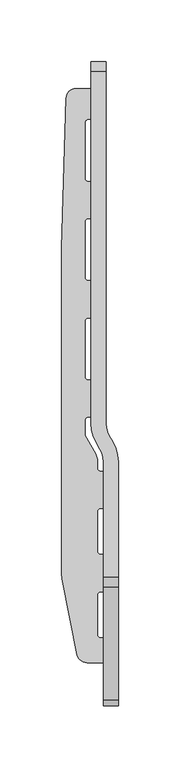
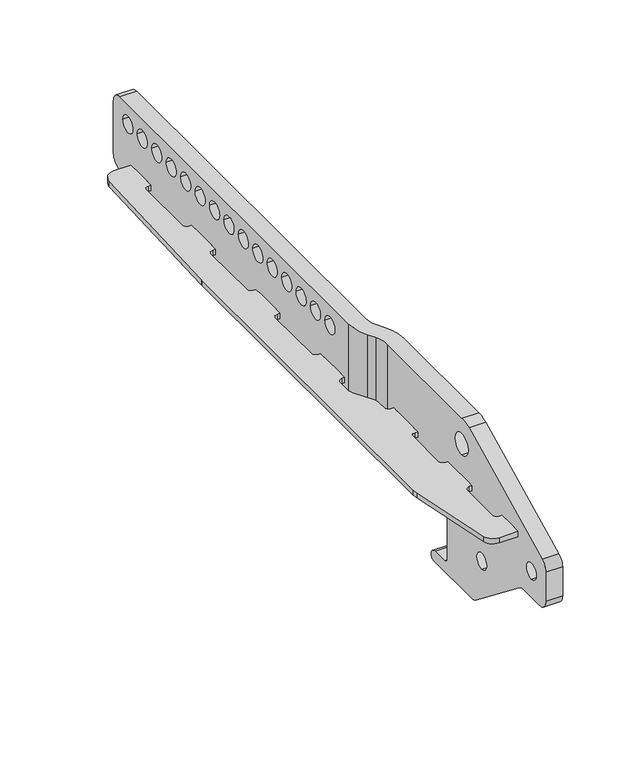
"""IFC4 building model written with IfcOpenShell, lengths in millimetres: proxy geometry, d&b CL-Series CCLi Beam Extension : d&b CL-Series CCLi Beam Extension."""

from ifc_helpers import new_model, si_unit, point, frame, frame_2d, origin, place, context, project, spatial, polyline, circle_curve, ellipse_curve, trimmed, segment, composite_curve, outline, extrude, source, transform, mapped, element, save
from ifc_brep_helpers import plane_surface, cylinder_surface, revolved_surface, advanced_brep


def communication_devices_8c2810ba(model_context):
    return source(origin(), model_context, "Body", "SolidModel", [
        extrude(outline(composite_curve([segment(polyline([(-16.0, 351.5705081), (-18.0, 351.5705081)]), True, "CONTINUOUS"), segment(trimmed(circle_curve(frame_2d((-18.0, 348.5705081)), 3.0), [point((-18.0, 351.5705081))], [point((-21.0, 348.5705081))], True, "CARTESIAN"), True, "CONTINUOUS"), segment(polyline([(-21.0, 348.5705081), (-21.0, 304.1239261)]), True, "CONTINUOUS"), segment(trimmed(circle_curve(frame_2d((-18.0, 304.1239261)), 3.0), [point((-21.0, 304.1239261))], [point((-18.0, 301.1239261))], True, "CARTESIAN"), True, "CONTINUOUS"), segment(polyline([(-18.0, 301.1239261), (-16.0, 301.1239261), (-16.0, 296.2882275), (-11.0, 296.2882275), (-11.0, 276.2882275), (-16.0, 276.2882275), (-16.0, 271.1239261), (-18.0, 271.1239261)]), True, "CONTINUOUS"), segment(trimmed(circle_curve(frame_2d((-18.0, 268.1239261)), 3.0), [point((-18.0, 271.1239261))], [point((-21.0, 268.1239261))], True, "CARTESIAN"), True, "CONTINUOUS"), segment(polyline([(-21.0, 268.1239261), (-21.0, 223.6773441)]), True, "CONTINUOUS"), segment(trimmed(circle_curve(frame_2d((-18.0, 223.6773441)), 3.0), [point((-21.0, 223.6773441))], [point((-18.0, 220.6773441))], True, "CARTESIAN"), True, "CONTINUOUS"), segment(polyline([(-18.0, 220.6773441), (-16.0, 220.6773441), (-16.0, 215.8416456), (-11.0, 215.8416456), (-11.0, 195.8416456), (-16.0, 195.8416456), (-16.0, 190.6773441), (-18.0, 190.6773441)]), True, "CONTINUOUS"), segment(trimmed(circle_curve(frame_2d((-18.0, 187.6773441)), 3.0), [point((-18.0, 190.6773441))], [point((-21.0, 187.6773441))], True, "CARTESIAN"), True, "CONTINUOUS"), segment(polyline([(-21.0, 187.6773441), (-21.0, 143.2307621)]), True, "CONTINUOUS"), segment(trimmed(circle_curve(frame_2d((-18.0, 143.2307621)), 3.0), [point((-21.0, 143.2307621))], [point((-18.0, 140.2307621))], True, "CARTESIAN"), True, "CONTINUOUS"), segment(polyline([(-18.0, 140.2307621), (-16.0, 140.2307621), (-16.0, 135.2307621), (-11.0, 135.2307621), (-11.0, 115.2307621), (-16.0, 115.2307621), (-16.0, 110.2307621), (-18.0, 110.2307621)]), True, "CONTINUOUS"), segment(trimmed(circle_curve(frame_2d((-18.0, 107.2307621)), 3.0), [point((-18.0, 110.2307621))], [point((-21.0, 107.2307621))], True, "CARTESIAN"), True, "CONTINUOUS"), segment(polyline([(-21.0, 107.2307621), (-21.0, 97.3743557)]), True, "CONTINUOUS"), segment(trimmed(circle_curve(frame_2d((-13.0, 97.3743557)), 8.0), [point((-21.0, 97.3743557))], [point((-19.9282032, 93.3743557))], True, "CARTESIAN"), True, "CONTINUOUS"), segment(polyline([(-19.9282032, 93.3743557), (-12.0717968, 79.7666605)]), True, "CONTINUOUS"), segment(trimmed(circle_curve(frame_2d((-19.0, 75.7666605)), 8.0), [point((-12.0717968, 79.7666605))], [point((-11.0, 75.7666605))], False, "CARTESIAN"), True, "CONTINUOUS"), segment(polyline([(-11.0, 75.7666605), (-11.0, 69.25)]), True, "CONTINUOUS"), segment(trimmed(circle_curve(frame_2d((-8.0, 69.25)), 3.0), [point((-11.0, 69.25))], [point((-8.0, 66.25))], True, "CARTESIAN"), True, "CONTINUOUS"), segment(polyline([(-8.0, 66.25), (-6.0, 66.25), (-6.0, 61.4143015), (-1.0, 61.4143015), (-1.0, 41.4143015), (-6.0, 41.4143015), (-6.0, 36.25), (-8.0, 36.25)]), True, "CONTINUOUS"), segment(trimmed(circle_curve(frame_2d((-8.0, 33.25)), 3.0), [point((-8.0, 36.25))], [point((-11.0, 33.25))], True, "CARTESIAN"), True, "CONTINUOUS"), segment(polyline([(-11.0, 33.25), (-11.0, 1.75)]), True, "CONTINUOUS"), segment(trimmed(circle_curve(frame_2d((-8.0, 1.75)), 3.0), [point((-11.0, 1.75))], [point((-8.0, -1.25))], True, "CARTESIAN"), True, "CONTINUOUS"), segment(polyline([(-8.0, -1.25), (-6.0, -1.25), (-6.0, -6.0856985), (-1.0, -6.0856985), (-1.0, -26.0856985), (-6.0, -26.0856985), (-6.0, -31.25), (-8.0, -31.25)]), True, "CONTINUOUS"), segment(trimmed(circle_curve(frame_2d((-8.0, -34.25)), 3.0), [point((-8.0, -31.25))], [point((-11.0, -34.25))], True, "CARTESIAN"), True, "CONTINUOUS"), segment(polyline([(-11.0, -34.25), (-11.0, -65.75)]), True, "CONTINUOUS"), segment(trimmed(circle_curve(frame_2d((-8.0, -65.75)), 3.0), [point((-11.0, -65.75))], [point((-8.0, -68.75))], True, "CARTESIAN"), True, "CONTINUOUS"), segment(polyline([(-8.0, -68.75), (-6.0, -68.75), (-6.0, -73.5856985), (-1.0, -73.5856985), (-1.0, -83.75), (-6.0, -83.75), (-6.0, -88.75), (-19.4415688, -88.75)]), True, "CONTINUOUS"), segment(trimmed(circle_curve(frame_2d((-19.4415688, -80.75)), 8.0), [point((-19.4415688, -88.75))], [point((-27.2862142, -82.3189291))], False, "CARTESIAN"), True, "CONTINUOUS"), segment(polyline([(-27.2862142, -82.3189291), (-39.6116135, -20.6919324)]), True, "CONTINUOUS"), segment(trimmed(circle_curve(frame_2d((-20.0, -16.7696097)), 20.0), [point((-39.6116135, -20.6919324))], [point((-40.0, -16.7696097))], False, "CARTESIAN"), True, "CONTINUOUS"), segment(polyline([(-40.0, -16.7696097), (-40.0, 245.8014593)]), True, "CONTINUOUS"), segment(trimmed(circle_curve(frame_2d((10.0, 245.8014593)), 50.0), [point((-40.0, 245.8014593))], [point((-39.9763482, 247.3391931))], False, "CARTESIAN"), True, "CONTINUOUS"), segment(polyline([(-39.9763482, 247.3391931), (-36.2385835, 368.8165455)]), True, "CONTINUOUS"), segment(trimmed(circle_curve(frame_2d((-28.2423678, 368.5705081)), 8.0), [point((-36.2385835, 368.8165455))], [point((-28.2423678, 376.5705081))], False, "CARTESIAN"), True, "CONTINUOUS"), segment(polyline([(-28.2423678, 376.5705081), (-16.0, 376.5705081), (-16.0, 371.7348095), (-11.0, 371.7348095), (-11.0, 356.5705081), (-16.0, 356.5705081), (-16.0, 351.5705081)]), True, "CONTINUOUS")], self_intersect=False)), frame((0.0, 0.0, 52.75), z_axis=(0.0, 0.0, 1.0), x_axis=(1.0, 0.0, 0.0)), (0.0, 0.0, 1.0), 4.0),
        advanced_brep(
        [(-16.0, 105.1448822, 100.75), (-11.7128129, 89.1448822, 100.75), (-8.6794919, 83.8910162, 100.75), (-6.0, 73.8910162, 100.75), (-6.0, -19.1133562, 100.75), (6.0, -19.1133562, 100.75), (6.0, 73.8910162, 100.75), (1.7128129, 89.8910162, 100.75), (-1.3205081, 95.1448822, 100.75), (-4.0, 105.1448822, 100.75), (-4.0, 390.25, 100.75), (-16.0, 390.25, 100.75), (6.0, 16.25, -29.25), (6.0, -30.9998956, -29.25), (-6.0, -30.9998956, -29.25), (-6.0, 16.25, -29.25), (-4.0, 398.25, 92.75), (-4.0, 398.25, 52.9327867), (-16.0, 398.25, 52.9327867), (-16.0, 398.25, 92.75), (-16.0, 390.7032549, 44.945637), (-16.0, 105.1448822, 28.740767), (-16.0, 374.0000883, 85.7832302), (-16.0, 386.5, 85.75), (-16.0, 356.0000883, 85.7832302), (-16.0, 368.5, 85.75), (-16.0, 337.966858, 85.7832302), (-16.0, 350.4667697, 85.75), (-16.0, 319.9336277, 85.7832302), (-16.0, 332.4335393, 85.75), (-16.0, 283.966858, 85.7832302), (-16.0, 296.4667697, 85.75), (-16.0, 302.0000883, 85.7832302), (-16.0, 314.5, 85.75), (-16.0, 265.966858, 85.7832302), (-16.0, 278.4667697, 85.75), (-16.0, 247.966858, 85.7832302), (-16.0, 260.4667697, 85.75), (-16.0, 229.9336277, 85.7832302), (-16.0, 242.4335393, 85.75), (-16.0, 211.9003973, 85.7832302), (-16.0, 224.400309, 85.75), (-16.0, 175.9336277, 85.7832302), (-16.0, 188.4335393, 85.75), (-16.0, 193.966858, 85.7832302), (-16.0, 206.4667697, 85.75), (-16.0, 158.0000883, 85.7832302), (-16.0, 170.5, 85.75), (-16.0, 122.0333187, 85.7832302), (-16.0, 134.5332303, 85.75), (-16.0, 140.066549, 85.7832302), (-16.0, 152.5664607, 85.75), (-16.0, 114.9807621, 57.0), (-16.0, 114.9807621, 52.5), (-16.0, 135.4807621, 52.5), (-16.0, 135.4807621, 57.0), (-16.0, 195.4273441, 57.0), (-16.0, 195.4273441, 52.5), (-16.0, 215.9273441, 52.5), (-16.0, 215.9273441, 57.0), (-16.0, 275.8739261, 57.0), (-16.0, 275.8739261, 52.5), (-16.0, 296.3739261, 52.5), (-16.0, 296.3739261, 57.0), (-16.0, 356.3205081, 57.0), (-16.0, 356.3205081, 52.5), (-16.0, 371.8205081, 52.5), (-16.0, 371.8205081, 57.0), (-11.7128129, 89.1448822, 27.776786), (-8.6794919, 83.8910162, 27.4602468), (-6.0, 73.8910162, 26.8577587), (-6.0, 72.0778609, 26.7485183), (-6.0, 65.5603449, 24.1829344), (-6.0, 59.2196847, 21.6219606), (-6.0, 34.25, 20.75), (-6.0, 2.25, 20.75), (-6.0, -0.75, 17.75), (-6.0, -0.75, -17.75), (-6.0, 2.25, -20.75), (-6.0, 14.25, -20.75), (-6.0, 19.2420533, -26.0317868), (-6.0, -35.9188202, -27.5590555), (-6.0, -90.5811798, 15.0590555), (-6.0, -95.5001044, 16.75), (-6.0, -115.75, 16.75), (-6.0, -123.75, 24.75), (-6.0, -123.75, 46.7612178), (-6.0, -119.270122, 53.9451402), (-6.0, -27.9136612, 98.709806), (-6.0, -18.75, 72.75), (-6.0, -18.75, 88.75), (-6.0, -43.75, 0.75), (-6.0, -43.75, 12.75), (-6.0, -105.75, 30.75), (-6.0, -105.75, 42.75), (-6.0, 41.0, 57.0), (-6.0, 41.0, 52.5), (-6.0, 61.5, 52.5), (-6.0, 61.5, 57.0), (-6.0, -26.5, 57.0), (-6.0, -26.5, 52.5), (-6.0, -6.0, 52.5), (-6.0, -6.0, 57.0), (-6.0, -84.0, 57.0), (-6.0, -84.0, 52.5), (-6.0, -73.5, 52.5), (-6.0, -73.5, 57.0), (-6.0, 56.25, 30.75), (-6.0, 56.25, 42.75), (6.0, -123.75, 24.75), (6.0, -123.75, 46.7612178), (6.0, -27.9136612, 98.709806), (6.0, -119.270122, 53.9451402), (6.0, -115.75, 16.75), (6.0, -95.5001044, 16.75), (6.0, -90.5811798, 15.0590555), (6.0, -35.9188202, -27.5590555), (6.0, 19.2420533, -26.0317868), (6.0, 14.25, -20.75), (6.0, 2.25, -20.75), (6.0, -0.75, -17.75), (6.0, -0.75, 17.75), (6.0, 2.25, 20.75), (6.0, 34.25, 20.75), (6.0, 59.2196847, 21.6219606), (6.0, 65.5603449, 24.1829344), (6.0, 72.0778609, 26.7485183), (6.0, 73.8910162, 26.8577587), (6.0, -18.75, 88.75), (6.0, -18.75, 72.75), (6.0, -43.75, 12.75), (6.0, -43.75, 0.75), (6.0, -105.75, 42.75), (6.0, -105.75, 30.75), (6.0, 41.0, 52.5), (6.0, 41.0, 57.0), (6.0, 61.5, 57.0), (6.0, 61.5, 52.5), (6.0, -26.5, 52.5), (6.0, -26.5, 57.0), (6.0, -6.0, 57.0), (6.0, -6.0, 52.5), (6.0, -84.0, 52.5), (6.0, -84.0, 57.0), (6.0, -73.5, 57.0), (6.0, -73.5, 52.5), (6.0, 56.25, 42.75), (6.0, 56.25, 30.75), (1.7128129, 89.8910162, 27.8217397), (-1.3205081, 95.1448822, 28.1382789), (-4.0, 105.1448822, 28.740767), (-4.0, 390.7032549, 44.945637), (-4.0, 386.5, 85.75), (-4.0, 374.0000883, 85.7832302), (-4.0, 368.5, 85.75), (-4.0, 356.0000883, 85.7832302), (-4.0, 350.4667697, 85.75), (-4.0, 337.966858, 85.7832302), (-4.0, 332.4335393, 85.75), (-4.0, 319.9336277, 85.7832302), (-4.0, 296.4667697, 85.75), (-4.0, 283.966858, 85.7832302), (-4.0, 314.5, 85.75), (-4.0, 302.0000883, 85.7832302), (-4.0, 278.4667697, 85.75), (-4.0, 265.966858, 85.7832302), (-4.0, 260.4667697, 85.75), (-4.0, 247.966858, 85.7832302), (-4.0, 242.4335393, 85.75), (-4.0, 229.9336277, 85.7832302), (-4.0, 224.400309, 85.75), (-4.0, 211.9003973, 85.7832302), (-4.0, 188.4335393, 85.75), (-4.0, 175.9336277, 85.7832302), (-4.0, 206.4667697, 85.75), (-4.0, 193.966858, 85.7832302), (-4.0, 170.5, 85.75), (-4.0, 158.0000883, 85.7832302), (-4.0, 134.5332303, 85.75), (-4.0, 122.0333187, 85.7832302), (-4.0, 152.5664607, 85.75), (-4.0, 140.066549, 85.7832302), (-4.0, 114.9807621, 52.5), (-4.0, 114.9807621, 57.0), (-4.0, 135.4807621, 57.0), (-4.0, 135.4807621, 52.5), (-4.0, 195.4273441, 52.5), (-4.0, 195.4273441, 57.0), (-4.0, 215.9273441, 57.0), (-4.0, 215.9273441, 52.5), (-4.0, 275.8739261, 52.5), (-4.0, 275.8739261, 57.0), (-4.0, 296.3739261, 57.0), (-4.0, 296.3739261, 52.5), (-4.0, 356.3205081, 52.5), (-4.0, 356.3205081, 57.0), (-4.0, 371.8205081, 57.0), (-4.0, 371.8205081, 52.5)],
        [
            (0, 1, circle_curve(frame((16.0, 105.1448822, 100.75), z_axis=(0.0, 0.0, 1.0), x_axis=(-1.0, 0.0, 0.0)), 32.0)),
            (1, 2),
            (2, 3, circle_curve(frame((-26.0, 73.8910162, 100.75), z_axis=(0.0, 0.0, -1.0), x_axis=(1.0, 0.0, 0.0)), 20.0)),
            (3, 4),
            (4, 5),
            (5, 6),
            (6, 7, circle_curve(frame((-26.0, 73.8910162, 100.75), z_axis=(0.0, 0.0, 1.0), x_axis=(1.0, 0.0, 0.0)), 32.0)),
            (7, 8),
            (8, 9, circle_curve(frame((16.0, 105.1448822, 100.75), z_axis=(0.0, 0.0, -1.0), x_axis=(-1.0, 0.0, 0.0)), 20.0)),
            (9, 10),
            (10, 11),
            (11, 0),
            (12, 13),
            (13, 14),
            (14, 15),
            (15, 12),
            (16, 17),
            (17, 18),
            (18, 19),
            (19, 16),
            (11, 19, circle_curve(frame((-16.0, 390.25, 92.75), z_axis=(-1.0, 0.0, 0.0), x_axis=(0.0, 0.0, 1.0)), 8.0)),
            (18, 20, circle_curve(frame((-16.0, 390.25, 52.9327867), z_axis=(-1.0, 0.0, 0.0), x_axis=(0.0, 0.0, 1.0)), 8.0)),
            (20, 21),
            (21, 0),
            (22, 23, circle_curve(frame((-16.0, 380.25, 85.75), z_axis=(1.0, 0.0, 0.0), x_axis=(0.0, 0.0, 1.0)), 6.25)),
            (23, 22, circle_curve(frame((-16.0, 380.25, 85.75), z_axis=(1.0, 0.0, 0.0), x_axis=(0.0, 0.0, 1.0)), 6.25)),
            (24, 25, circle_curve(frame((-16.0, 362.25, 85.75), z_axis=(1.0, 0.0, 0.0), x_axis=(0.0, 0.0, 1.0)), 6.25)),
            (25, 24, circle_curve(frame((-16.0, 362.25, 85.75), z_axis=(1.0, 0.0, 0.0), x_axis=(0.0, 0.0, 1.0)), 6.25)),
            (26, 27, circle_curve(frame((-16.0, 344.2167697, 85.75), z_axis=(1.0, 0.0, 0.0), x_axis=(0.0, 0.0, 1.0)), 6.25)),
            (27, 26, circle_curve(frame((-16.0, 344.2167697, 85.75), z_axis=(1.0, 0.0, 0.0), x_axis=(0.0, 0.0, 1.0)), 6.25)),
            (28, 29, circle_curve(frame((-16.0, 326.1835393, 85.75), z_axis=(1.0, 0.0, 0.0), x_axis=(0.0, 0.0, 1.0)), 6.25)),
            (29, 28, circle_curve(frame((-16.0, 326.1835393, 85.75), z_axis=(1.0, 0.0, 0.0), x_axis=(0.0, 0.0, 1.0)), 6.25)),
            (30, 31, circle_curve(frame((-16.0, 290.2167697, 85.75), z_axis=(1.0, 0.0, 0.0), x_axis=(0.0, 0.0, 1.0)), 6.25)),
            (31, 30, circle_curve(frame((-16.0, 290.2167697, 85.75), z_axis=(1.0, 0.0, 0.0), x_axis=(0.0, 0.0, 1.0)), 6.25)),
            (32, 33, circle_curve(frame((-16.0, 308.25, 85.75), z_axis=(1.0, 0.0, 0.0), x_axis=(0.0, 0.0, 1.0)), 6.25)),
            (33, 32, circle_curve(frame((-16.0, 308.25, 85.75), z_axis=(1.0, 0.0, 0.0), x_axis=(0.0, 0.0, 1.0)), 6.25)),
            (34, 35, circle_curve(frame((-16.0, 272.2167697, 85.75), z_axis=(1.0, 0.0, 0.0), x_axis=(0.0, 0.0, 1.0)), 6.25)),
            (35, 34, circle_curve(frame((-16.0, 272.2167697, 85.75), z_axis=(1.0, 0.0, 0.0), x_axis=(0.0, 0.0, 1.0)), 6.25)),
            (36, 37, circle_curve(frame((-16.0, 254.2167697, 85.75), z_axis=(1.0, 0.0, 0.0), x_axis=(0.0, 0.0, 1.0)), 6.25)),
            (37, 36, circle_curve(frame((-16.0, 254.2167697, 85.75), z_axis=(1.0, 0.0, 0.0), x_axis=(0.0, 0.0, 1.0)), 6.25)),
            (38, 39, circle_curve(frame((-16.0, 236.1835393, 85.75), z_axis=(1.0, 0.0, 0.0), x_axis=(0.0, 0.0, 1.0)), 6.25)),
            (39, 38, circle_curve(frame((-16.0, 236.1835393, 85.75), z_axis=(1.0, 0.0, 0.0), x_axis=(0.0, 0.0, 1.0)), 6.25)),
            (40, 41, circle_curve(frame((-16.0, 218.150309, 85.75), z_axis=(1.0, 0.0, 0.0), x_axis=(0.0, 0.0, 1.0)), 6.25)),
            (41, 40, circle_curve(frame((-16.0, 218.150309, 85.75), z_axis=(1.0, 0.0, 0.0), x_axis=(0.0, 0.0, 1.0)), 6.25)),
            (42, 43, circle_curve(frame((-16.0, 182.1835393, 85.75), z_axis=(1.0, 0.0, 0.0), x_axis=(0.0, 0.0, 1.0)), 6.25)),
            (43, 42, circle_curve(frame((-16.0, 182.1835393, 85.75), z_axis=(1.0, 0.0, 0.0), x_axis=(0.0, 0.0, 1.0)), 6.25)),
            (44, 45, circle_curve(frame((-16.0, 200.2167697, 85.75), z_axis=(1.0, 0.0, 0.0), x_axis=(0.0, 0.0, 1.0)), 6.25)),
            (45, 44, circle_curve(frame((-16.0, 200.2167697, 85.75), z_axis=(1.0, 0.0, 0.0), x_axis=(0.0, 0.0, 1.0)), 6.25)),
            (46, 47, circle_curve(frame((-16.0, 164.25, 85.75), z_axis=(1.0, 0.0, 0.0), x_axis=(0.0, 0.0, 1.0)), 6.25)),
            (47, 46, circle_curve(frame((-16.0, 164.25, 85.75), z_axis=(1.0, 0.0, 0.0), x_axis=(0.0, 0.0, 1.0)), 6.25)),
            (48, 49, circle_curve(frame((-16.0, 128.2832303, 85.75), z_axis=(1.0, 0.0, 0.0), x_axis=(0.0, 0.0, 1.0)), 6.25)),
            (49, 48, circle_curve(frame((-16.0, 128.2832303, 85.75), z_axis=(1.0, 0.0, 0.0), x_axis=(0.0, 0.0, 1.0)), 6.25)),
            (50, 51, circle_curve(frame((-16.0, 146.3164607, 85.75), z_axis=(1.0, 0.0, 0.0), x_axis=(0.0, 0.0, 1.0)), 6.25)),
            (51, 50, circle_curve(frame((-16.0, 146.3164607, 85.75), z_axis=(1.0, 0.0, 0.0), x_axis=(0.0, 0.0, 1.0)), 6.25)),
            (52, 53),
            (53, 54),
            (54, 55),
            (55, 52),
            (56, 57),
            (57, 58),
            (58, 59),
            (59, 56),
            (60, 61),
            (61, 62),
            (62, 63),
            (63, 60),
            (64, 65),
            (65, 66),
            (66, 67),
            (67, 64),
            (21, 68, ellipse_curve(frame((16.0, 105.1448822, 28.740767), z_axis=(0.0, -0.06013975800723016, 0.9981899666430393), x_axis=(0.0, 0.9981899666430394, 0.06013975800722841)), 32.0580261, 32.0)),
            (68, 1),
            (68, 69),
            (69, 2),
            (69, 70, ellipse_curve(frame((-26.0, 73.8910162, 26.8577587), z_axis=(0.0, 0.06013975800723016, -0.9981899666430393), x_axis=(0.0, -0.9981899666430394, -0.06013975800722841)), 20.0362663, 20.0)),
            (70, 3),
            (70, 71),
            (71, 72, circle_curve(frame((-6.0, 72.25, 16.75), z_axis=(1.0, 0.0, 0.0), x_axis=(0.0, 0.0, -1.0)), 10.0)),
            (72, 73, circle_curve(frame((-6.0, 58.8706898, 31.6158689), z_axis=(-1.0, 0.0, 0.0), x_axis=(0.0, 0.0, 1.0)), 10.0)),
            (73, 74),
            (74, 75),
            (75, 76, circle_curve(frame((-6.0, 2.25, 17.75), z_axis=(1.0, 0.0, 0.0), x_axis=(0.0, 0.0, -1.0)), 3.0)),
            (76, 77),
            (77, 78, circle_curve(frame((-6.0, 2.25, -17.75), z_axis=(1.0, 0.0, 0.0), x_axis=(0.0, 0.0, -1.0)), 3.0)),
            (78, 79),
            (79, 80, circle_curve(frame((-6.0, 14.25, -25.75), z_axis=(-1.0, 0.0, 0.0), x_axis=(0.0, 0.0, 1.0)), 5.0)),
            (80, 15, circle_curve(frame((-6.0, 16.25, -26.25), z_axis=(-1.0, 0.0, 0.0), x_axis=(0.0, 0.0, 1.0)), 3.0)),
            (14, 81, circle_curve(frame((-6.0, -30.9998956, -21.25), z_axis=(-1.0, 0.0, 0.0), x_axis=(0.0, 0.0, 1.0)), 8.0)),
            (81, 82),
            (82, 83, circle_curve(frame((-6.0, -95.5001044, 8.75), z_axis=(1.0, 0.0, 0.0), x_axis=(0.0, 0.0, -1.0)), 8.0)),
            (83, 84),
            (84, 85, circle_curve(frame((-6.0, -115.75, 24.75), z_axis=(-1.0, 0.0, 0.0), x_axis=(0.0, 0.0, 1.0)), 8.0)),
            (85, 86),
            (86, 87, circle_curve(frame((-6.0, -115.75, 46.7612178), z_axis=(-1.0, 0.0, 0.0), x_axis=(0.0, 0.0, 1.0)), 8.0)),
            (87, 88),
            (88, 4, circle_curve(frame((-6.0, -19.1133562, 80.75), z_axis=(-1.0, 0.0, 0.0), x_axis=(0.0, 0.0, 1.0)), 20.0)),
            (89, 90, circle_curve(frame((-6.0, -18.75, 80.75), z_axis=(1.0, 0.0, 0.0), x_axis=(0.0, 0.0, 1.0)), 8.0)),
            (90, 89, circle_curve(frame((-6.0, -18.75, 80.75), z_axis=(1.0, 0.0, 0.0), x_axis=(0.0, 0.0, 1.0)), 8.0)),
            (91, 92, circle_curve(frame((-6.0, -43.75, 6.75), z_axis=(1.0, 0.0, 0.0), x_axis=(0.0, 0.0, 1.0)), 6.0)),
            (92, 91, circle_curve(frame((-6.0, -43.75, 6.75), z_axis=(1.0, 0.0, 0.0), x_axis=(0.0, 0.0, 1.0)), 6.0)),
            (93, 94, circle_curve(frame((-6.0, -105.75, 36.75), z_axis=(1.0, 0.0, 0.0), x_axis=(0.0, 0.0, 1.0)), 6.0)),
            (94, 93, circle_curve(frame((-6.0, -105.75, 36.75), z_axis=(1.0, 0.0, 0.0), x_axis=(0.0, 0.0, 1.0)), 6.0)),
            (95, 96),
            (96, 97),
            (97, 98),
            (98, 95),
            (99, 100),
            (100, 101),
            (101, 102),
            (102, 99),
            (103, 104),
            (104, 105),
            (105, 106),
            (106, 103),
            (107, 108, circle_curve(frame((-6.0, 56.25, 36.75), z_axis=(1.0, 0.0, 0.0), x_axis=(0.0, 0.0, 1.0)), 6.0)),
            (108, 107, circle_curve(frame((-6.0, 56.25, 36.75), z_axis=(1.0, 0.0, 0.0), x_axis=(0.0, 0.0, 1.0)), 6.0)),
            (85, 109),
            (109, 110),
            (110, 86),
            (5, 111, circle_curve(frame((6.0, -19.1133562, 80.75), z_axis=(1.0, 0.0, 0.0), x_axis=(0.0, 0.0, 1.0)), 20.0)),
            (111, 112),
            (112, 110, circle_curve(frame((6.0, -115.75, 46.7612178), z_axis=(1.0, 0.0, 0.0), x_axis=(0.0, 0.0, 1.0)), 8.0)),
            (109, 113, circle_curve(frame((6.0, -115.75, 24.75), z_axis=(1.0, 0.0, 0.0), x_axis=(0.0, 0.0, 1.0)), 8.0)),
            (113, 114),
            (114, 115, circle_curve(frame((6.0, -95.5001044, 8.75), z_axis=(-1.0, 0.0, 0.0), x_axis=(0.0, 0.0, -1.0)), 8.0)),
            (115, 116),
            (116, 13, circle_curve(frame((6.0, -30.9998956, -21.25), z_axis=(1.0, 0.0, 0.0), x_axis=(0.0, 0.0, 1.0)), 8.0)),
            (12, 117, circle_curve(frame((6.0, 16.25, -26.25), z_axis=(1.0, 0.0, 0.0), x_axis=(0.0, 0.0, 1.0)), 3.0)),
            (117, 118, circle_curve(frame((6.0, 14.25, -25.75), z_axis=(1.0, 0.0, 0.0), x_axis=(0.0, 0.0, 1.0)), 5.0)),
            (118, 119),
            (119, 120, circle_curve(frame((6.0, 2.25, -17.75), z_axis=(-1.0, 0.0, 0.0), x_axis=(0.0, 0.0, -1.0)), 3.0)),
            (120, 121),
            (121, 122, circle_curve(frame((6.0, 2.25, 17.75), z_axis=(-1.0, 0.0, 0.0), x_axis=(0.0, 0.0, -1.0)), 3.0)),
            (122, 123),
            (123, 124),
            (124, 125, circle_curve(frame((6.0, 58.8706898, 31.6158689), z_axis=(1.0, 0.0, 0.0), x_axis=(0.0, 0.0, 1.0)), 10.0)),
            (125, 126, circle_curve(frame((6.0, 72.25, 16.75), z_axis=(-1.0, 0.0, 0.0), x_axis=(0.0, 0.0, -1.0)), 10.0)),
            (126, 127),
            (127, 6),
            (128, 129, circle_curve(frame((6.0, -18.75, 80.75), z_axis=(-1.0, 0.0, 0.0), x_axis=(0.0, 0.0, 1.0)), 8.0)),
            (129, 128, circle_curve(frame((6.0, -18.75, 80.75), z_axis=(-1.0, 0.0, 0.0), x_axis=(0.0, 0.0, 1.0)), 8.0)),
            (130, 131, circle_curve(frame((6.0, -43.75, 6.75), z_axis=(-1.0, 0.0, 0.0), x_axis=(0.0, 0.0, 1.0)), 6.0)),
            (131, 130, circle_curve(frame((6.0, -43.75, 6.75), z_axis=(-1.0, 0.0, 0.0), x_axis=(0.0, 0.0, 1.0)), 6.0)),
            (132, 133, circle_curve(frame((6.0, -105.75, 36.75), z_axis=(-1.0, 0.0, 0.0), x_axis=(0.0, 0.0, 1.0)), 6.0)),
            (133, 132, circle_curve(frame((6.0, -105.75, 36.75), z_axis=(-1.0, 0.0, 0.0), x_axis=(0.0, 0.0, 1.0)), 6.0)),
            (134, 135),
            (135, 136),
            (136, 137),
            (137, 134),
            (138, 139),
            (139, 140),
            (140, 141),
            (141, 138),
            (142, 143),
            (143, 144),
            (144, 145),
            (145, 142),
            (146, 147, circle_curve(frame((6.0, 56.25, 36.75), z_axis=(-1.0, 0.0, 0.0), x_axis=(0.0, 0.0, 1.0)), 6.0)),
            (147, 146, circle_curve(frame((6.0, 56.25, 36.75), z_axis=(-1.0, 0.0, 0.0), x_axis=(0.0, 0.0, 1.0)), 6.0)),
            (127, 148, ellipse_curve(frame((-26.0, 73.8910162, 26.8577587), z_axis=(0.0, -0.06013975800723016, 0.9981899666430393), x_axis=(0.0, 0.9981899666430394, 0.06013975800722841)), 32.0580261, 32.0)),
            (148, 7),
            (148, 149),
            (149, 8),
            (149, 150, ellipse_curve(frame((16.0, 105.1448822, 28.740767), z_axis=(0.0, 0.06013975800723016, -0.9981899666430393), x_axis=(0.0, -0.9981899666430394, -0.06013975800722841)), 20.0362663, 20.0)),
            (150, 9),
            (150, 151),
            (151, 17, circle_curve(frame((-4.0, 390.25, 52.9327867), z_axis=(1.0, 0.0, 0.0), x_axis=(0.0, 0.0, 1.0)), 8.0)),
            (16, 10, circle_curve(frame((-4.0, 390.25, 92.75), z_axis=(1.0, 0.0, 0.0), x_axis=(0.0, 0.0, 1.0)), 8.0)),
            (152, 153, circle_curve(frame((-4.0, 380.25, 85.75), z_axis=(-1.0, 0.0, 0.0), x_axis=(0.0, 0.0, 1.0)), 6.25)),
            (153, 152, circle_curve(frame((-4.0, 380.25, 85.75), z_axis=(-1.0, 0.0, 0.0), x_axis=(0.0, 0.0, 1.0)), 6.25)),
            (154, 155, circle_curve(frame((-4.0, 362.25, 85.75), z_axis=(-1.0, 0.0, 0.0), x_axis=(0.0, 0.0, 1.0)), 6.25)),
            (155, 154, circle_curve(frame((-4.0, 362.25, 85.75), z_axis=(-1.0, 0.0, 0.0), x_axis=(0.0, 0.0, 1.0)), 6.25)),
            (156, 157, circle_curve(frame((-4.0, 344.2167697, 85.75), z_axis=(-1.0, 0.0, 0.0), x_axis=(0.0, 0.0, 1.0)), 6.25)),
            (157, 156, circle_curve(frame((-4.0, 344.2167697, 85.75), z_axis=(-1.0, 0.0, 0.0), x_axis=(0.0, 0.0, 1.0)), 6.25)),
            (158, 159, circle_curve(frame((-4.0, 326.1835393, 85.75), z_axis=(-1.0, 0.0, 0.0), x_axis=(0.0, 0.0, 1.0)), 6.25)),
            (159, 158, circle_curve(frame((-4.0, 326.1835393, 85.75), z_axis=(-1.0, 0.0, 0.0), x_axis=(0.0, 0.0, 1.0)), 6.25)),
            (160, 161, circle_curve(frame((-4.0, 290.2167697, 85.75), z_axis=(-1.0, 0.0, 0.0), x_axis=(0.0, 0.0, 1.0)), 6.25)),
            (161, 160, circle_curve(frame((-4.0, 290.2167697, 85.75), z_axis=(-1.0, 0.0, 0.0), x_axis=(0.0, 0.0, 1.0)), 6.25)),
            (162, 163, circle_curve(frame((-4.0, 308.25, 85.75), z_axis=(-1.0, 0.0, 0.0), x_axis=(0.0, 0.0, 1.0)), 6.25)),
            (163, 162, circle_curve(frame((-4.0, 308.25, 85.75), z_axis=(-1.0, 0.0, 0.0), x_axis=(0.0, 0.0, 1.0)), 6.25)),
            (164, 165, circle_curve(frame((-4.0, 272.2167697, 85.75), z_axis=(-1.0, 0.0, 0.0), x_axis=(0.0, 0.0, 1.0)), 6.25)),
            (165, 164, circle_curve(frame((-4.0, 272.2167697, 85.75), z_axis=(-1.0, 0.0, 0.0), x_axis=(0.0, 0.0, 1.0)), 6.25)),
            (166, 167, circle_curve(frame((-4.0, 254.2167697, 85.75), z_axis=(-1.0, 0.0, 0.0), x_axis=(0.0, 0.0, 1.0)), 6.25)),
            (167, 166, circle_curve(frame((-4.0, 254.2167697, 85.75), z_axis=(-1.0, 0.0, 0.0), x_axis=(0.0, 0.0, 1.0)), 6.25)),
            (168, 169, circle_curve(frame((-4.0, 236.1835393, 85.75), z_axis=(-1.0, 0.0, 0.0), x_axis=(0.0, 0.0, 1.0)), 6.25)),
            (169, 168, circle_curve(frame((-4.0, 236.1835393, 85.75), z_axis=(-1.0, 0.0, 0.0), x_axis=(0.0, 0.0, 1.0)), 6.25)),
            (170, 171, circle_curve(frame((-4.0, 218.150309, 85.75), z_axis=(-1.0, 0.0, 0.0), x_axis=(0.0, 0.0, 1.0)), 6.25)),
            (171, 170, circle_curve(frame((-4.0, 218.150309, 85.75), z_axis=(-1.0, 0.0, 0.0), x_axis=(0.0, 0.0, 1.0)), 6.25)),
            (172, 173, circle_curve(frame((-4.0, 182.1835393, 85.75), z_axis=(-1.0, 0.0, 0.0), x_axis=(0.0, 0.0, 1.0)), 6.25)),
            (173, 172, circle_curve(frame((-4.0, 182.1835393, 85.75), z_axis=(-1.0, 0.0, 0.0), x_axis=(0.0, 0.0, 1.0)), 6.25)),
            (174, 175, circle_curve(frame((-4.0, 200.2167697, 85.75), z_axis=(-1.0, 0.0, 0.0), x_axis=(0.0, 0.0, 1.0)), 6.25)),
            (175, 174, circle_curve(frame((-4.0, 200.2167697, 85.75), z_axis=(-1.0, 0.0, 0.0), x_axis=(0.0, 0.0, 1.0)), 6.25)),
            (176, 177, circle_curve(frame((-4.0, 164.25, 85.75), z_axis=(-1.0, 0.0, 0.0), x_axis=(0.0, 0.0, 1.0)), 6.25)),
            (177, 176, circle_curve(frame((-4.0, 164.25, 85.75), z_axis=(-1.0, 0.0, 0.0), x_axis=(0.0, 0.0, 1.0)), 6.25)),
            (178, 179, circle_curve(frame((-4.0, 128.2832303, 85.75), z_axis=(-1.0, 0.0, 0.0), x_axis=(0.0, 0.0, 1.0)), 6.25)),
            (179, 178, circle_curve(frame((-4.0, 128.2832303, 85.75), z_axis=(-1.0, 0.0, 0.0), x_axis=(0.0, 0.0, 1.0)), 6.25)),
            (180, 181, circle_curve(frame((-4.0, 146.3164607, 85.75), z_axis=(-1.0, 0.0, 0.0), x_axis=(0.0, 0.0, 1.0)), 6.25)),
            (181, 180, circle_curve(frame((-4.0, 146.3164607, 85.75), z_axis=(-1.0, 0.0, 0.0), x_axis=(0.0, 0.0, 1.0)), 6.25)),
            (182, 183),
            (183, 184),
            (184, 185),
            (185, 182),
            (186, 187),
            (187, 188),
            (188, 189),
            (189, 186),
            (190, 191),
            (191, 192),
            (192, 193),
            (193, 190),
            (194, 195),
            (195, 196),
            (196, 197),
            (197, 194),
            (150, 21),
            (20, 151),
            (126, 71),
            (125, 72),
            (124, 73),
            (123, 74),
            (122, 75),
            (121, 76),
            (120, 77),
            (119, 78),
            (118, 79),
            (117, 80),
            (116, 81),
            (115, 82),
            (114, 83),
            (113, 84),
            (112, 87),
            (111, 88),
            (22, 153),
            (152, 23),
            (24, 155),
            (154, 25),
            (26, 157),
            (156, 27),
            (28, 159),
            (158, 29),
            (30, 161),
            (160, 31),
            (32, 163),
            (162, 33),
            (34, 165),
            (164, 35),
            (36, 167),
            (166, 37),
            (38, 169),
            (168, 39),
            (40, 171),
            (170, 41),
            (42, 173),
            (172, 43),
            (44, 175),
            (174, 45),
            (46, 177),
            (176, 47),
            (48, 179),
            (178, 49),
            (50, 181),
            (180, 51),
            (89, 129),
            (128, 90),
            (91, 131),
            (130, 92),
            (93, 133),
            (132, 94),
            (52, 183),
            (182, 53),
            (185, 54),
            (184, 55),
            (56, 187),
            (186, 57),
            (189, 58),
            (188, 59),
            (60, 191),
            (190, 61),
            (193, 62),
            (192, 63),
            (64, 195),
            (194, 65),
            (197, 66),
            (196, 67),
            (95, 135),
            (134, 96),
            (137, 97),
            (136, 98),
            (99, 139),
            (138, 100),
            (141, 101),
            (140, 102),
            (103, 143),
            (142, 104),
            (145, 105),
            (144, 106),
            (107, 147),
            (146, 108),
        ],
        [
            plane_surface(frame((-16.0, 398.25, 100.75), z_axis=(0.0, 0.0, 1.0), x_axis=(-1.0, 0.0, 0.0))),
            plane_surface(frame((-16.0, 398.25, -29.25), z_axis=(0.0, 0.0, -1.0), x_axis=(1.0, 0.0, 0.0))),
            plane_surface(frame((-4.0, 398.25, 100.75), z_axis=(0.0, 1.0, 0.0), x_axis=(0.0, 0.0, -1.0))),
            plane_surface(frame((-16.0, 398.25, 100.75), z_axis=(-1.0, 0.0, 0.0), x_axis=(0.0, 0.0, -1.0))),
            cylinder_surface(frame((16.0, 105.1448822, -29.25), z_axis=(0.0, 0.0, 1.0), x_axis=(-1.0, 0.0, 0.0)), 32.0),
            plane_surface(frame((-11.7128129, 89.1448822, 100.75), z_axis=(-0.8660254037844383, -0.5000000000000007, 0.0), x_axis=(0.0, 0.0, -1.0))),
            revolved_surface(polyline([(-6.0, 73.8910162, 25.65278249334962), (-6.0, 73.8910162, 100.75)]), (-26.0, 73.8910162, -29.25), (0.0, 0.0, -1.0)),
            plane_surface(frame((-6.0, 73.8910162, 100.75), z_axis=(-1.0, 0.0, 0.0), x_axis=(0.0, 0.0, -1.0))),
            plane_surface(frame((-6.0, -123.75, 100.75), z_axis=(0.0, -1.0, 0.0), x_axis=(0.0, 0.0, -1.0))),
            plane_surface(frame((6.0, -123.75, 100.75), z_axis=(1.0, 0.0, 0.0), x_axis=(0.0, 0.0, -1.0))),
            cylinder_surface(frame((-26.0, 73.8910162, -29.25), z_axis=(0.0, 0.0, 1.0), x_axis=(1.0, 0.0, 0.0)), 32.0),
            plane_surface(frame((1.7128129, 89.8910162, 100.75), z_axis=(0.8660254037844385, 0.5000000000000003, 0.0), x_axis=(0.0, 0.0, -1.0))),
            revolved_surface(polyline([(-4.0, 105.1448822, 27.53579079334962), (-4.0, 105.1448822, 100.75)]), (16.0, 105.1448822, -29.25), (0.0, 0.0, -1.0)),
            plane_surface(frame((-4.0, 105.1448822, 100.75), z_axis=(1.0, 0.0, 0.0), x_axis=(0.0, 0.0, -1.0))),
            plane_surface(frame((30.0, 390.7032549, 44.945637), z_axis=(0.0, 0.05665685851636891, -0.9983937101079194), x_axis=(-1.0, 0.0, 0.0))),
            plane_surface(frame((30.0, 105.1448822, 28.740767), z_axis=(0.0, 0.06013975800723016, -0.9981899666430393), x_axis=(-1.0, 0.0, 0.0))),
            revolved_surface(polyline([(6.0, 72.25, 6.75), (-6.0, 72.25, 6.75)]), (-30.0, 72.25, 16.75), (1.0, 0.0, 0.0)),
            cylinder_surface(frame((-30.0, 58.8706898, 31.6158689), z_axis=(-1.0, 0.0, 0.0), x_axis=(0.0, 0.0, 1.0)), 10.0),
            plane_surface(frame((30.0, 59.2196847, 21.6219606), z_axis=(0.0, 0.034899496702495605, -0.999390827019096), x_axis=(-1.0, 0.0, 0.0))),
            plane_surface(frame((30.0, 34.25, 20.75), z_axis=(0.0, 0.0, -1.0), x_axis=(-1.0, 0.0, 0.0))),
            revolved_surface(polyline([(6.0, 2.25, 14.75), (-6.0, 2.25, 14.75)]), (-30.0, 2.25, 17.75), (1.0, 0.0, 0.0)),
            plane_surface(frame((30.0, -0.75, 17.75), z_axis=(0.0, 1.0, 0.0), x_axis=(-1.0, 0.0, 0.0))),
            revolved_surface(polyline([(6.0, 2.25, -20.75), (-6.0, 2.25, -20.75)]), (-30.0, 2.25, -17.75), (1.0, 0.0, 0.0)),
            plane_surface(frame((30.0, 2.25, -20.75), z_axis=(0.0, 0.0, 1.0), x_axis=(-1.0, 0.0, 0.0))),
            cylinder_surface(frame((-30.0, 14.25, -25.75), z_axis=(-1.0, 0.0, 0.0), x_axis=(0.0, 0.0, 1.0)), 5.0),
            cylinder_surface(frame((-30.0, 16.25, -26.25), z_axis=(-1.0, 0.0, 0.0), x_axis=(0.0, 0.0, 1.0)), 3.0),
            cylinder_surface(frame((-30.0, -30.9998956, -21.25), z_axis=(-1.0, 0.0, 0.0), x_axis=(0.0, 0.0, 1.0)), 8.0),
            plane_surface(frame((30.0, -35.9188202, -27.5590555), z_axis=(0.0, -0.614865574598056, -0.7886319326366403), x_axis=(-1.0, 0.0, 0.0))),
            revolved_surface(polyline([(6.0, -95.5001044, 0.75), (-6.0, -95.5001044, 0.75)]), (-30.0, -95.5001044, 8.75), (1.0, 0.0, 0.0)),
            plane_surface(frame((30.0, -95.5001044, 16.75), z_axis=(0.0, 0.0, -1.0), x_axis=(-1.0, 0.0, 0.0))),
            cylinder_surface(frame((-30.0, -115.75, 24.75), z_axis=(-1.0, 0.0, 0.0), x_axis=(0.0, 0.0, 1.0)), 8.0),
            cylinder_surface(frame((-30.0, -115.75, 46.7612178), z_axis=(-1.0, 0.0, 0.0), x_axis=(0.0, 0.0, 1.0)), 8.0),
            plane_surface(frame((30.0, -119.270122, 53.9451402), z_axis=(0.0, -0.4400152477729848, 0.8979903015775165), x_axis=(-1.0, 0.0, 0.0))),
            cylinder_surface(frame((-30.0, -19.1133562, 80.75), z_axis=(-1.0, 0.0, 0.0), x_axis=(0.0, 0.0, 1.0)), 20.0),
            cylinder_surface(frame((-30.0, 390.25, 92.75), z_axis=(-1.0, 0.0, 0.0), x_axis=(0.0, 0.0, 1.0)), 8.0),
            cylinder_surface(frame((-30.0, 390.25, 52.9327867), z_axis=(-1.0, 0.0, 0.0), x_axis=(0.0, 0.0, 1.0)), 8.0),
            revolved_surface(polyline([(-4.0, 380.25, 92.0), (-16.0, 380.25, 92.0)]), (0.0, 380.25, 85.75), (1.0, 0.0, 0.0)),
            revolved_surface(polyline([(-4.0, 362.25, 92.0), (-16.0, 362.25, 92.0)]), (0.0, 362.25, 85.75), (1.0, 0.0, 0.0)),
            revolved_surface(polyline([(-4.0, 344.2167697, 92.0), (-16.0, 344.2167697, 92.0)]), (0.0, 344.2167697, 85.75), (1.0, 0.0, 0.0)),
            revolved_surface(polyline([(-4.0, 326.1835393, 92.0), (-16.0, 326.1835393, 92.0)]), (0.0, 326.1835393, 85.75), (1.0, 0.0, 0.0)),
            revolved_surface(polyline([(-4.0, 290.2167697, 92.0), (-16.0, 290.2167697, 92.0)]), (0.0, 290.2167697, 85.75), (1.0, 0.0, 0.0)),
            revolved_surface(polyline([(-4.0, 308.25, 92.0), (-16.0, 308.25, 92.0)]), (0.0, 308.25, 85.75), (1.0, 0.0, 0.0)),
            revolved_surface(polyline([(-4.0, 272.2167697, 92.0), (-16.0, 272.2167697, 92.0)]), (0.0, 272.2167697, 85.75), (1.0, 0.0, 0.0)),
            revolved_surface(polyline([(-4.0, 254.2167697, 92.0), (-16.0, 254.2167697, 92.0)]), (0.0, 254.2167697, 85.75), (1.0, 0.0, 0.0)),
            revolved_surface(polyline([(-4.0, 236.1835393, 92.0), (-16.0, 236.1835393, 92.0)]), (0.0, 236.1835393, 85.75), (1.0, 0.0, 0.0)),
            revolved_surface(polyline([(-4.0, 218.150309, 92.0), (-16.0, 218.150309, 92.0)]), (0.0, 218.150309, 85.75), (1.0, 0.0, 0.0)),
            revolved_surface(polyline([(-4.0, 182.1835393, 92.0), (-16.0, 182.1835393, 92.0)]), (0.0, 182.1835393, 85.75), (1.0, 0.0, 0.0)),
            revolved_surface(polyline([(-4.0, 200.2167697, 92.0), (-16.0, 200.2167697, 92.0)]), (0.0, 200.2167697, 85.75), (1.0, 0.0, 0.0)),
            revolved_surface(polyline([(-4.0, 164.25, 92.0), (-16.0, 164.25, 92.0)]), (0.0, 164.25, 85.75), (1.0, 0.0, 0.0)),
            revolved_surface(polyline([(-4.0, 128.2832303, 92.0), (-16.0, 128.2832303, 92.0)]), (0.0, 128.2832303, 85.75), (1.0, 0.0, 0.0)),
            revolved_surface(polyline([(-4.0, 146.3164607, 92.0), (-16.0, 146.3164607, 92.0)]), (0.0, 146.3164607, 85.75), (1.0, 0.0, 0.0)),
            revolved_surface(polyline([(6.0, -18.75, 88.75), (-6.0, -18.75, 88.75)]), (0.0, -18.75, 80.75), (1.0, 0.0, 0.0)),
            revolved_surface(polyline([(6.0, -43.75, 12.75), (-6.0, -43.75, 12.75)]), (0.0, -43.75, 6.75), (1.0, 0.0, 0.0)),
            revolved_surface(polyline([(6.0, -105.75, 42.75), (-6.0, -105.75, 42.75)]), (0.0, -105.75, 36.75), (1.0, 0.0, 0.0)),
            plane_surface(frame((30.0, 114.9807621, 57.0), z_axis=(0.0, 1.0, 0.0), x_axis=(-1.0, 0.0, 0.0))),
            plane_surface(frame((30.0, 114.9807621, 52.5), z_axis=(0.0, 0.0, 1.0), x_axis=(-1.0, 0.0, 0.0))),
            plane_surface(frame((30.0, 135.4807621, 52.5), z_axis=(0.0, -1.0, 0.0), x_axis=(-1.0, 0.0, 0.0))),
            plane_surface(frame((30.0, 135.4807621, 57.0), z_axis=(0.0, 0.0, -1.0), x_axis=(-1.0, 0.0, 0.0))),
            plane_surface(frame((30.0, 195.4273441, 57.0), z_axis=(0.0, 1.0, 0.0), x_axis=(-1.0, 0.0, 0.0))),
            plane_surface(frame((30.0, 195.4273441, 52.5), z_axis=(0.0, 0.0, 1.0), x_axis=(-1.0, 0.0, 0.0))),
            plane_surface(frame((30.0, 215.9273441, 52.5), z_axis=(0.0, -1.0, 0.0), x_axis=(-1.0, 0.0, 0.0))),
            plane_surface(frame((30.0, 215.9273441, 57.0), z_axis=(0.0, 0.0, -1.0), x_axis=(-1.0, 0.0, 0.0))),
            plane_surface(frame((30.0, 275.8739261, 57.0), z_axis=(0.0, 1.0, 0.0), x_axis=(-1.0, 0.0, 0.0))),
            plane_surface(frame((30.0, 275.8739261, 52.5), z_axis=(0.0, 0.0, 1.0), x_axis=(-1.0, 0.0, 0.0))),
            plane_surface(frame((30.0, 296.3739261, 52.5), z_axis=(0.0, -1.0, 0.0), x_axis=(-1.0, 0.0, 0.0))),
            plane_surface(frame((30.0, 296.3739261, 57.0), z_axis=(0.0, 0.0, -1.0), x_axis=(-1.0, 0.0, 0.0))),
            plane_surface(frame((30.0, 356.3205081, 57.0), z_axis=(0.0, 1.0, 0.0), x_axis=(-1.0, 0.0, 0.0))),
            plane_surface(frame((30.0, 356.3205081, 52.5), z_axis=(0.0, 0.0, 1.0), x_axis=(-1.0, 0.0, 0.0))),
            plane_surface(frame((30.0, 371.8205081, 52.5), z_axis=(0.0, -1.0, 0.0), x_axis=(-1.0, 0.0, 0.0))),
            plane_surface(frame((30.0, 371.8205081, 57.0), z_axis=(0.0, 0.0, -1.0), x_axis=(-1.0, 0.0, 0.0))),
            plane_surface(frame((30.0, 41.0, 57.0), z_axis=(0.0, 1.0, 0.0), x_axis=(-1.0, 0.0, 0.0))),
            plane_surface(frame((30.0, 41.0, 52.5), z_axis=(0.0, 0.0, 1.0), x_axis=(-1.0, 0.0, 0.0))),
            plane_surface(frame((30.0, 61.5, 52.5), z_axis=(0.0, -1.0, 0.0), x_axis=(-1.0, 0.0, 0.0))),
            plane_surface(frame((30.0, 61.5, 57.0), z_axis=(0.0, 0.0, -1.0), x_axis=(-1.0, 0.0, 0.0))),
            plane_surface(frame((30.0, -26.5, 57.0), z_axis=(0.0, 1.0, 0.0), x_axis=(-1.0, 0.0, 0.0))),
            plane_surface(frame((30.0, -26.5, 52.5), z_axis=(0.0, 0.0, 1.0), x_axis=(-1.0, 0.0, 0.0))),
            plane_surface(frame((30.0, -6.0, 52.5), z_axis=(0.0, -1.0, 0.0), x_axis=(-1.0, 0.0, 0.0))),
            plane_surface(frame((30.0, -6.0, 57.0), z_axis=(0.0, 0.0, -1.0), x_axis=(-1.0, 0.0, 0.0))),
            plane_surface(frame((30.0, -84.0, 57.0), z_axis=(0.0, 1.0, 0.0), x_axis=(-1.0, 0.0, 0.0))),
            plane_surface(frame((30.0, -84.0, 52.5), z_axis=(0.0, 0.0, 1.0), x_axis=(-1.0, 0.0, 0.0))),
            plane_surface(frame((30.0, -73.5, 52.5), z_axis=(0.0, -1.0, 0.0), x_axis=(-1.0, 0.0, 0.0))),
            plane_surface(frame((30.0, -73.5, 57.0), z_axis=(0.0, 0.0, -1.0), x_axis=(-1.0, 0.0, 0.0))),
            revolved_surface(polyline([(6.0, 56.25, 42.75), (-6.0, 56.25, 42.75)]), (0.0, 56.25, 36.75), (1.0, 0.0, 0.0)),
        ],
        [
            (0, [[1, 2, 3, 4, 5, 6, 7, 8, 9, 10, 11, 12]]),
            (1, [[13, 14, 15, 16]]),
            (2, [[17, 18, 19, 20]]),
            (3, [[-12, 21, -19, 22, 23, 24], [25, 26], [27, 28], [29, 30], [31, 32], [33, 34], [35, 36], [37, 38], [39, 40], [41, 42], [43, 44], [45, 46], [47, 48], [49, 50], [51, 52], [53, 54], [55, 56, 57, 58], [59, 60, 61, 62], [63, 64, 65, 66], [67, 68, 69, 70]]),
            (4, [[-1, -24, 71, 72]]),
            (5, [[-2, -72, 73, 74]]),
            (6, [[-3, -74, 75, 76]]),
            (7, [[-4, -76, 77, 78, 79, 80, 81, 82, 83, 84, 85, 86, 87, -15, 88, 89, 90, 91, 92, 93, 94, 95, 96], [97, 98], [99, 100], [101, 102], [103, 104, 105, 106], [107, 108, 109, 110], [111, 112, 113, 114], [115, 116]]),
            (8, [[-93, 117, 118, 119]]),
            (9, [[-6, 120, 121, 122, -118, 123, 124, 125, 126, 127, -13, 128, 129, 130, 131, 132, 133, 134, 135, 136, 137, 138, 139], [140, 141], [142, 143], [144, 145], [146, 147, 148, 149], [150, 151, 152, 153], [154, 155, 156, 157], [158, 159]]),
            (10, [[-7, -139, 160, 161]]),
            (11, [[-8, -161, 162, 163]]),
            (12, [[-9, -163, 164, 165]]),
            (13, [[-10, -165, 166, 167, -17, 168], [169, 170], [171, 172], [173, 174], [175, 176], [177, 178], [179, 180], [181, 182], [183, 184], [185, 186], [187, 188], [189, 190], [191, 192], [193, 194], [195, 196], [197, 198], [199, 200, 201, 202], [203, 204, 205, 206], [207, 208, 209, 210], [211, 212, 213, 214]]),
            (14, [[215, -23, 216, -166]]),
            (15, [[-215, -164, -162, -160, -138, 217, -77, -75, -73, -71]]),
            (16, [[-217, -137, 218, -78]]),
            (17, [[-218, -136, 219, -79]]),
            (18, [[-219, -135, 220, -80]]),
            (19, [[-220, -134, 221, -81]]),
            (20, [[-221, -133, 222, -82]]),
            (21, [[-222, -132, 223, -83]]),
            (22, [[-223, -131, 224, -84]]),
            (23, [[-224, -130, 225, -85]]),
            (24, [[-225, -129, 226, -86]]),
            (25, [[-226, -128, -16, -87]]),
            (26, [[227, -88, -14, -127]]),
            (27, [[-227, -126, 228, -89]]),
            (28, [[-228, -125, 229, -90]]),
            (29, [[-229, -124, 230, -91]]),
            (30, [[-230, -123, -117, -92]]),
            (31, [[231, -94, -119, -122]]),
            (32, [[-231, -121, 232, -95]]),
            (33, [[-232, -120, -5, -96]]),
            (34, [[-11, -168, -20, -21]]),
            (35, [[-216, -22, -18, -167]]),
            (36, [[233, -169, 234, -25]]),
            (36, [[-233, -26, -234, -170]]),
            (37, [[235, -171, 236, -27]]),
            (37, [[-235, -28, -236, -172]]),
            (38, [[237, -173, 238, -29]]),
            (38, [[-237, -30, -238, -174]]),
            (39, [[239, -175, 240, -31]]),
            (39, [[-239, -32, -240, -176]]),
            (40, [[241, -177, 242, -33]]),
            (40, [[-241, -34, -242, -178]]),
            (41, [[243, -179, 244, -35]]),
            (41, [[-243, -36, -244, -180]]),
            (42, [[245, -181, 246, -37]]),
            (42, [[-245, -38, -246, -182]]),
            (43, [[247, -183, 248, -39]]),
            (43, [[-247, -40, -248, -184]]),
            (44, [[249, -185, 250, -41]]),
            (44, [[-249, -42, -250, -186]]),
            (45, [[251, -187, 252, -43]]),
            (45, [[-251, -44, -252, -188]]),
            (46, [[253, -189, 254, -45]]),
            (46, [[-253, -46, -254, -190]]),
            (47, [[255, -191, 256, -47]]),
            (47, [[-255, -48, -256, -192]]),
            (48, [[257, -193, 258, -49]]),
            (48, [[-257, -50, -258, -194]]),
            (49, [[259, -195, 260, -51]]),
            (49, [[-259, -52, -260, -196]]),
            (50, [[261, -197, 262, -53]]),
            (50, [[-261, -54, -262, -198]]),
            (51, [[263, -140, 264, -97]]),
            (51, [[-263, -98, -264, -141]]),
            (52, [[265, -142, 266, -99]]),
            (52, [[-265, -100, -266, -143]]),
            (53, [[267, -144, 268, -101]]),
            (53, [[-267, -102, -268, -145]]),
            (54, [[269, -199, 270, -55]]),
            (55, [[-270, -202, 271, -56]]),
            (56, [[-271, -201, 272, -57]]),
            (57, [[-269, -58, -272, -200]]),
            (58, [[273, -203, 274, -59]]),
            (59, [[-274, -206, 275, -60]]),
            (60, [[-275, -205, 276, -61]]),
            (61, [[-273, -62, -276, -204]]),
            (62, [[277, -207, 278, -63]]),
            (63, [[-278, -210, 279, -64]]),
            (64, [[-279, -209, 280, -65]]),
            (65, [[-277, -66, -280, -208]]),
            (66, [[281, -211, 282, -67]]),
            (67, [[-282, -214, 283, -68]]),
            (68, [[-283, -213, 284, -69]]),
            (69, [[-281, -70, -284, -212]]),
            (70, [[285, -146, 286, -103]]),
            (71, [[-286, -149, 287, -104]]),
            (72, [[-287, -148, 288, -105]]),
            (73, [[-285, -106, -288, -147]]),
            (74, [[289, -150, 290, -107]]),
            (75, [[-290, -153, 291, -108]]),
            (76, [[-291, -152, 292, -109]]),
            (77, [[-289, -110, -292, -151]]),
            (78, [[293, -154, 294, -111]]),
            (79, [[-294, -157, 295, -112]]),
            (80, [[-295, -156, 296, -113]]),
            (81, [[-293, -114, -296, -155]]),
            (82, [[297, -158, 298, -115]]),
            (82, [[-297, -116, -298, -159]]),
        ],
    ),
    ])


if __name__ == "__main__":
    model = new_model("IFC4")
    model_context = context("Model", 3, world=origin())
    ifc_project = project(units=[si_unit("LENGTHUNIT", "METRE", prefix="MILLI")], contexts=[model_context])
    site = spatial("IfcSite", under=ifc_project)
    building = spatial("IfcBuilding", under=site)
    placement = place(None, origin())
    communication_devices_shape = communication_devices_8c2810ba(model_context)
    element("IfcBuildingElementProxy", 1, Name="d&b CL-Series CCLi Beam Extension : d&b CL-Series CCLi Beam Extension", ObjectType="d&b CL-Series CCLi Beam Extension : d&b CL-Series CCLi Beam Extension", at=placement, inside=building, context=model_context, shape_type="MappedRepresentation", body=[
        mapped(communication_devices_shape, transform((0.0, 0.0, 0.0), x_axis=(1.0, 0.0, 0.0), y_axis=(0.0, 1.0, 0.0), z_axis=(0.0, 0.0, 1.0))),
    ])
    save(model, "model.ifc")
